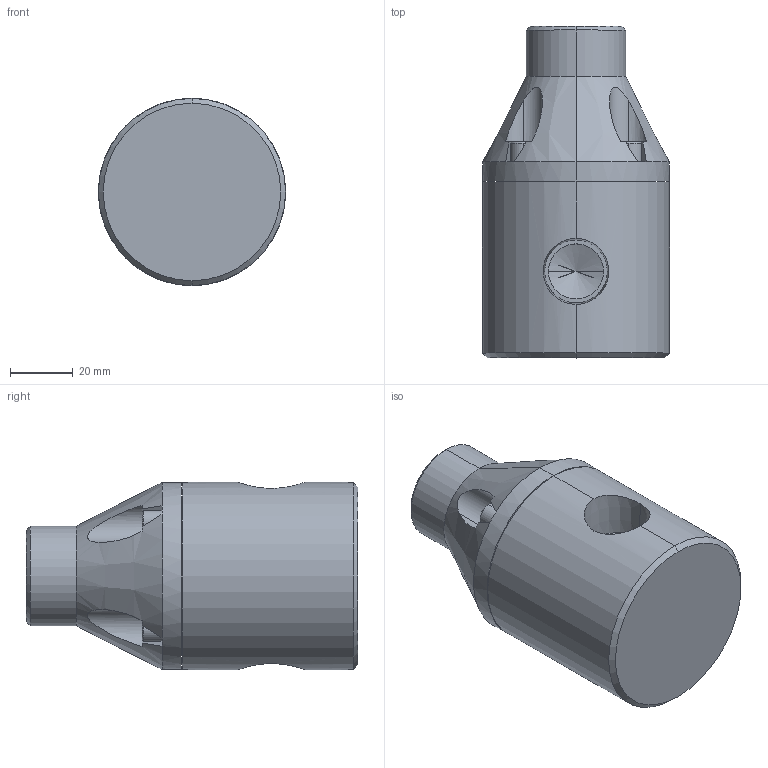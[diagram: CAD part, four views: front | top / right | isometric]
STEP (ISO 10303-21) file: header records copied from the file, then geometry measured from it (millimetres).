
FILE_DESCRIPTION (( 'STEP AP203' ), '1' );
FILE_NAME ('MBP0500BSPT.STEP', '2015-03-19T10:30:32', ( 'Dan Bernard' ), ( '' ), 'SwSTEP 2.0', 'SolidWorks 2008', '' );
FILE_SCHEMA (( 'CONFIG_CONTROL_DESIGN' ));
Length unit declared in the file: inch
Products named in the file (1): MBP0500BSPT
Bounding box: 59.44 x 105.41 x 59.44 mm (x, y, z)
Volume: 212317.2 mm3; surface area: 28593.2 mm2
Topology: 1 solids, 1 shells, 126 faces, 304 edges, 190 vertices
Faces by surface type: plane 70, cylinder 30, cone 26
Entity records: 4071 total; most frequent: CARTESIAN_POINT 1039, DIRECTION 622, ORIENTED_EDGE 600, EDGE_CURVE 300, AXIS2_PLACEMENT_3D 217, VERTEX_POINT 190, VECTOR 188, LINE 188
